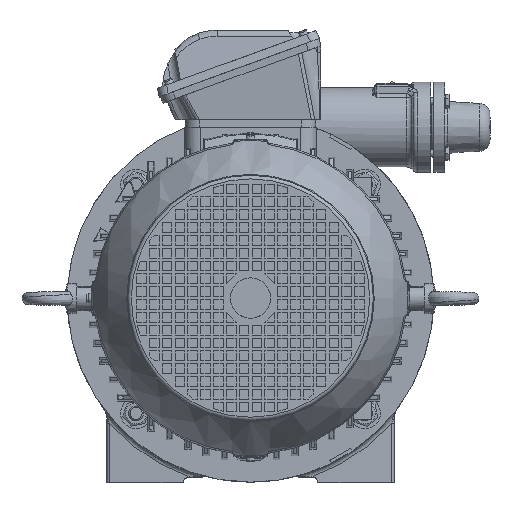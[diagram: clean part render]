
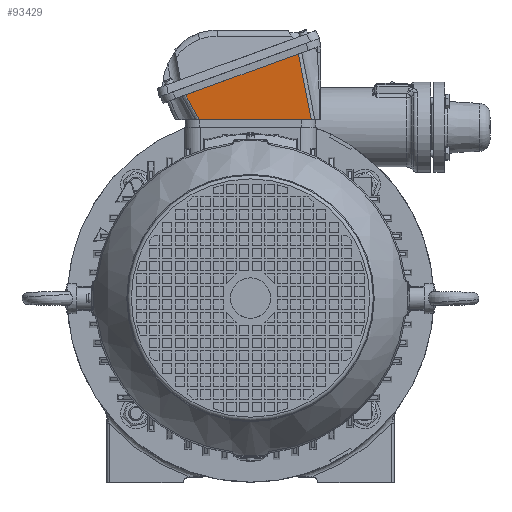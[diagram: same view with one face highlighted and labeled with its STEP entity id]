
A CAD part, top view. The second image highlights one B-rep face of the part: STEP entity #93429.
In plain terms, the highlighted planar face has unit normal (0.036, -0.098, 0.995).
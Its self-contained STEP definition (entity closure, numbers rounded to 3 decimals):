
#3067=B_SPLINE_CURVE_WITH_KNOTS('',3,(#158568,#158569,#158570,#158571),
 .UNSPECIFIED.,.F.,.F.,(4,4),(0.,0.023),.UNSPECIFIED.);
#3068=B_SPLINE_CURVE_WITH_KNOTS('',3,(#158572,#158573,#158574,#158575,#158576,
#158577,#158578,#158579,#158580,#158581,#158582,#158583,#158584),
 .UNSPECIFIED.,.F.,.F.,(4,3,3,3,4),(0.,0.027,0.027,
0.05,0.055),.UNSPECIFIED.);
#14762=LINE('',#158470,#21925);
#14766=LINE('',#158567,#21929);
#21925=VECTOR('',#114845,1000.);
#21929=VECTOR('',#114859,1000.);
#27527=FACE_OUTER_BOUND('',#33129,.T.);
#33129=EDGE_LOOP('',(#73395,#73396,#73397,#73398));
#43501=VERTEX_POINT('',#158468);
#43502=VERTEX_POINT('',#158469);
#43517=VERTEX_POINT('',#158565);
#43518=VERTEX_POINT('',#158566);
#54136=EDGE_CURVE('',#43501,#43502,#14762,.T.);
#54152=EDGE_CURVE('',#43517,#43518,#14766,.T.);
#54153=EDGE_CURVE('',#43518,#43502,#3067,.T.);
#54154=EDGE_CURVE('',#43501,#43517,#3068,.T.);
#73395=ORIENTED_EDGE('',*,*,#54152,.T.);
#73396=ORIENTED_EDGE('',*,*,#54153,.T.);
#73397=ORIENTED_EDGE('',*,*,#54136,.F.);
#73398=ORIENTED_EDGE('',*,*,#54154,.T.);
#90015=PLANE('',#99519);
#93429=ADVANCED_FACE('',(#27527),#90015,.T.);
#99519=AXIS2_PLACEMENT_3D('',#158564,#114857,#114858);
#114845=DIRECTION('',(-0.999,0.,0.036));
#114857=DIRECTION('center_axis',(0.036,-0.098,
0.995));
#114858=DIRECTION('ref_axis',(0.,0.995,0.098));
#114859=DIRECTION('',(-0.94,-0.342,0.));
#158468=CARTESIAN_POINT('',(49.714,146.5,332.648));
#158469=CARTESIAN_POINT('',(-41.969,146.5,335.944));
#158470=CARTESIAN_POINT('',(52.77,146.5,332.539));
#158564=CARTESIAN_POINT('Origin',(53.,211.5,338.95));
#158565=CARTESIAN_POINT('',(39.196,200.091,338.319));
#158566=CARTESIAN_POINT('',(-53.103,166.497,338.319));
#158567=CARTESIAN_POINT('',(55.052,205.862,338.319));
#158568=CARTESIAN_POINT('Ctrl Pts',(-53.103,166.497,
338.319));
#158569=CARTESIAN_POINT('Ctrl Pts',(-49.364,159.847,
337.528));
#158570=CARTESIAN_POINT('Ctrl Pts',(-45.658,153.178,
336.736));
#158571=CARTESIAN_POINT('Ctrl Pts',(-41.969,146.5,335.944));
#158572=CARTESIAN_POINT('Ctrl Pts',(49.714,146.5,332.648));
#158573=CARTESIAN_POINT('Ctrl Pts',(47.933,155.339,333.585));
#158574=CARTESIAN_POINT('Ctrl Pts',(46.165,164.18,334.522));
#158575=CARTESIAN_POINT('Ctrl Pts',(44.422,173.026,335.459));
#158576=CARTESIAN_POINT('Ctrl Pts',(44.406,173.111,335.467));
#158577=CARTESIAN_POINT('Ctrl Pts',(44.389,173.195,335.476));
#158578=CARTESIAN_POINT('Ctrl Pts',(44.373,173.279,335.485));
#158579=CARTESIAN_POINT('Ctrl Pts',(42.919,180.657,336.266));
#158580=CARTESIAN_POINT('Ctrl Pts',(41.482,188.038,337.047));
#158581=CARTESIAN_POINT('Ctrl Pts',(40.078,195.426,337.827));
#158582=CARTESIAN_POINT('Ctrl Pts',(39.782,196.981,337.991));
#158583=CARTESIAN_POINT('Ctrl Pts',(39.488,198.535,338.155));
#158584=CARTESIAN_POINT('Ctrl Pts',(39.196,200.091,338.319));
